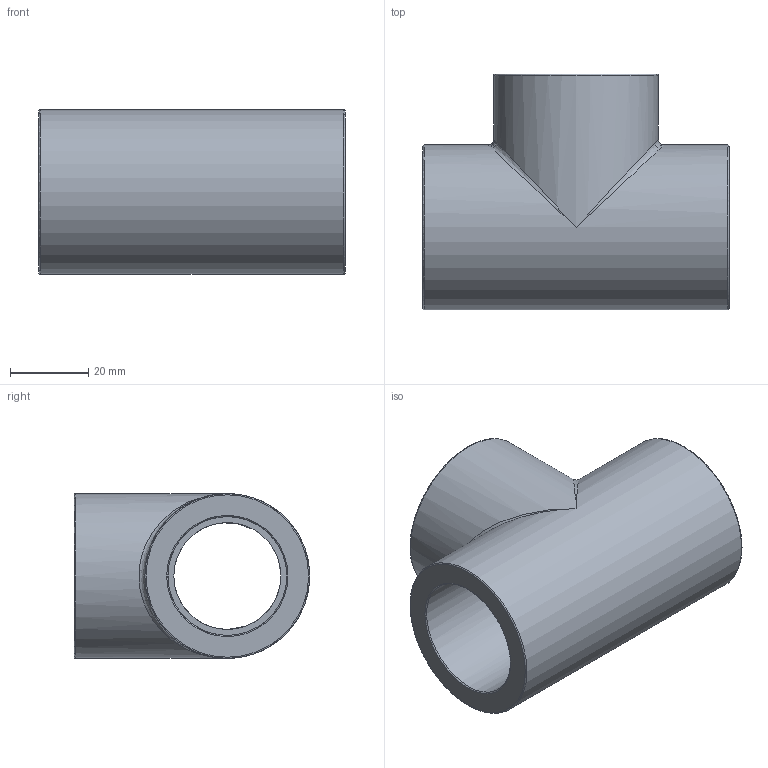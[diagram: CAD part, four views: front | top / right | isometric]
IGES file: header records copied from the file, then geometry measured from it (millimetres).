
Global section: file name: 050401010.ipt; native system: Autodesk Inventor 2015; preprocessor: unknown; author: KIM; date: 20171207.164509; units: millimetre
Bounding box: 78 x 60 x 42 mm (x, y, z)
Volume: 66015.6 mm3; surface area: 23421.8 mm2
Topology: 1 solids, 1 shells, 20 faces, 65 edges, 42 vertices
Faces by surface type: revolution 10, plane 6, bspline 2, cylinder 2
Full cylindrical faces by diameter (mm): 42 x2
